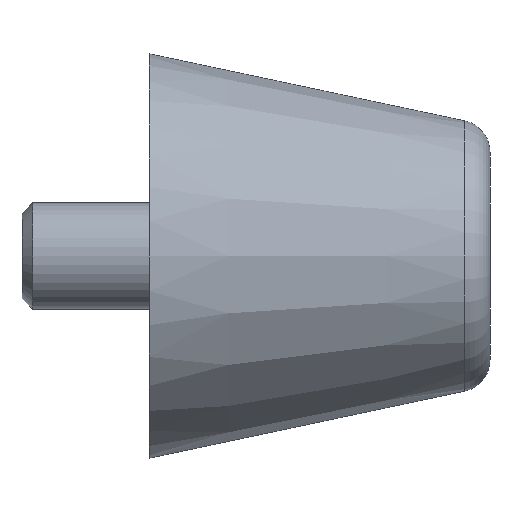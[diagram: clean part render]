
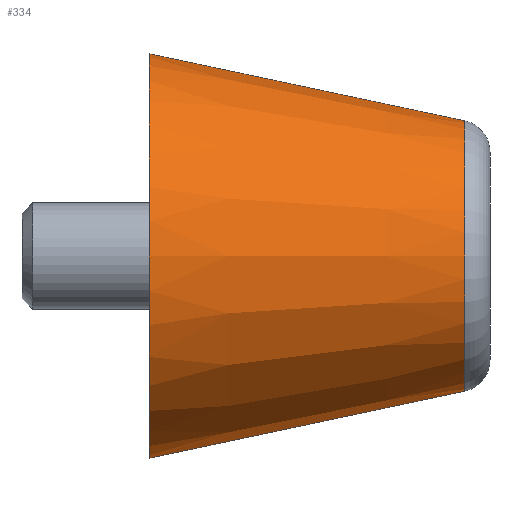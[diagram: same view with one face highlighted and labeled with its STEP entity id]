
A CAD part, left-side view. The second image highlights one B-rep face of the part: STEP entity #334.
In plain terms, the highlighted conical face has half-angle 11.997 degrees and reference radius 6.1 mm.
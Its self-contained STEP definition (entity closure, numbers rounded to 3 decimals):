
#22 = DIRECTION ( 'NONE',  ( 0., 1., 0. ) ) ;
#41 = DIRECTION ( 'NONE',  ( 0., 1., 0. ) ) ;
#53 = ORIENTED_EDGE ( 'NONE', *, *, #509, .F. ) ;
#58 = DIRECTION ( 'NONE',  ( 0., -1., 0. ) ) ;
#66 = DIRECTION ( 'NONE',  ( 0., 0.978, 0.208 ) ) ;
#74 = LINE ( 'NONE', #323, #520 ) ;
#92 = ORIENTED_EDGE ( 'NONE', *, *, #162, .T. ) ;
#101 = VERTEX_POINT ( 'NONE', #180 ) ;
#106 = CARTESIAN_POINT ( 'NONE',  ( 0., 16., -9.5 ) ) ;
#124 = ORIENTED_EDGE ( 'NONE', *, *, #240, .T. ) ;
#129 = CIRCLE ( 'NONE', #206, 6.352 ) ;
#158 = CONICAL_SURFACE ( 'NONE', #312, 6.1, 0.209 ) ;
#162 = EDGE_CURVE ( 'NONE', #101, #477, #496, .T. ) ;
#168 = VECTOR ( 'NONE', #66, 1000. ) ;
#176 = DIRECTION ( 'NONE',  ( 0., 0., 1. ) ) ;
#180 = CARTESIAN_POINT ( 'NONE',  ( 0., 1.188, 6.352 ) ) ;
#206 = AXIS2_PLACEMENT_3D ( 'NONE', #460, #41, #367 ) ;
#209 = FACE_OUTER_BOUND ( 'NONE', #420, .T. ) ;
#217 = CARTESIAN_POINT ( 'NONE',  ( 0., 1.188, -6.352 ) ) ;
#240 = EDGE_CURVE ( 'NONE', #424, #101, #129, .T. ) ;
#258 = CARTESIAN_POINT ( 'NONE',  ( 0., 0., 6.1 ) ) ;
#312 = AXIS2_PLACEMENT_3D ( 'NONE', #376, #22, #176 ) ;
#322 = CARTESIAN_POINT ( 'NONE',  ( 0., 16., 9.5 ) ) ;
#323 = CARTESIAN_POINT ( 'NONE',  ( 0., 0., -6.1 ) ) ;
#325 = EDGE_CURVE ( 'NONE', #477, #471, #499, .T. ) ;
#334 = ADVANCED_FACE ( 'NONE', ( #209 ), #158, .T. ) ;
#356 = ORIENTED_EDGE ( 'NONE', *, *, #325, .T. ) ;
#365 = DIRECTION ( 'NONE',  ( 0., 0.978, -0.208 ) ) ;
#367 = DIRECTION ( 'NONE',  ( 0., 0., -1. ) ) ;
#376 = CARTESIAN_POINT ( 'NONE',  ( 0., 0., 0. ) ) ;
#420 = EDGE_LOOP ( 'NONE', ( #53, #124, #92, #356 ) ) ;
#424 = VERTEX_POINT ( 'NONE', #217 ) ;
#429 = CARTESIAN_POINT ( 'NONE',  ( 0., 16., 0. ) ) ;
#441 = AXIS2_PLACEMENT_3D ( 'NONE', #429, #58, #515 ) ;
#460 = CARTESIAN_POINT ( 'NONE',  ( 0., 1.188, 0. ) ) ;
#471 = VERTEX_POINT ( 'NONE', #106 ) ;
#477 = VERTEX_POINT ( 'NONE', #322 ) ;
#496 = LINE ( 'NONE', #258, #168 ) ;
#499 = CIRCLE ( 'NONE', #441, 9.5 ) ;
#509 = EDGE_CURVE ( 'NONE', #424, #471, #74, .T. ) ;
#515 = DIRECTION ( 'NONE',  ( 0., 0., -1. ) ) ;
#520 = VECTOR ( 'NONE', #365, 1000. ) ;
